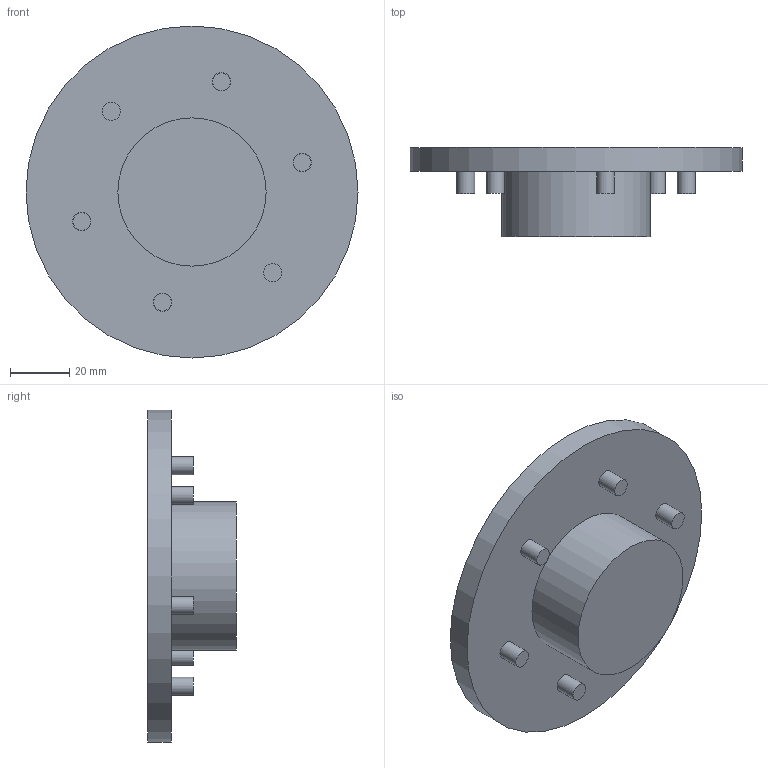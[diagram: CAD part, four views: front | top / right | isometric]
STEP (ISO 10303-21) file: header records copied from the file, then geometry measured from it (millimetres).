
FILE_DESCRIPTION( ( 'STEP AP203' ), '1' );
FILE_NAME( 'p:/temp/worker_56/temp/app_40_0201907090753265011453310e898ce_000000_00_00_000000/format_0/AMF427369.stp', '2019-07-09T05:53:27', ( '' ), ( '' ), ' ', 'PARTsolutions', ' ' );
FILE_SCHEMA( ( 'CONFIG_CONTROL_DESIGN' ) );
Length unit declared in the file: millimetre
Products named in the file (1): _AMF427369
Bounding box: 112 x 30 x 112 mm (x, y, z)
Volume: 112111 mm3; surface area: 31167.1 mm2
Topology: 1 solids, 1 shells, 123 faces, 245 edges, 163 vertices
Faces by surface type: plane 89, cylinder 30, cone 4
Full cylindrical faces by diameter (mm): 4.917 x2, 6 x6, 6.2 x6, 10 x6, 12 x6, 22 x1, 49 x1, 50 x1, 112 x1
Entity records: 3042 total; most frequent: DIRECTION 524, CARTESIAN_POINT 496, ORIENTED_EDGE 420, EDGE_CURVE 210, EDGE_LOOP 196, AXIS2_PLACEMENT_3D 190, VERTEX_POINT 162, FACE_OUTER_BOUND 153
